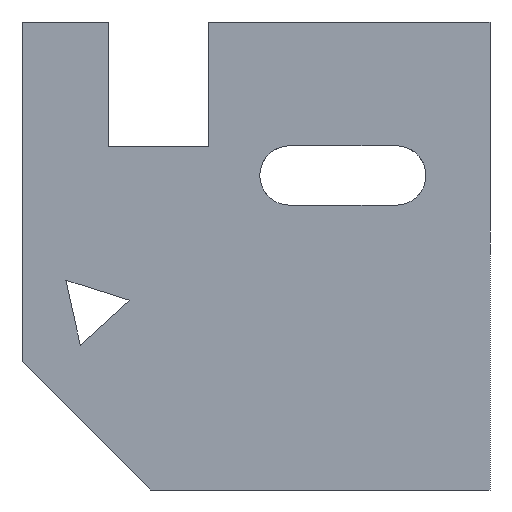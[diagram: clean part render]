
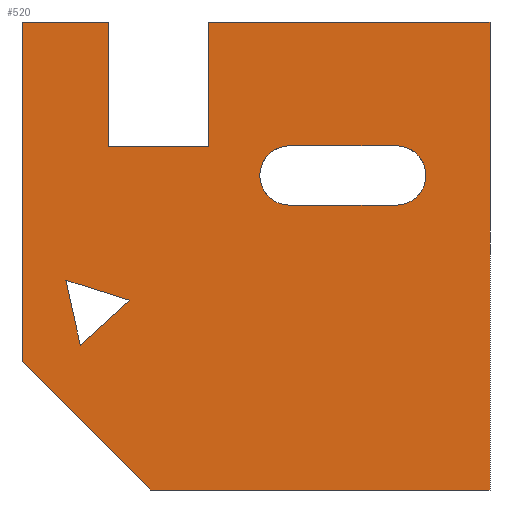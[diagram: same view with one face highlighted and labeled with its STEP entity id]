
A CAD part, front view. The second image highlights one B-rep face of the part: STEP entity #520.
In plain terms, the highlighted planar face has unit normal (0, -1, 0).
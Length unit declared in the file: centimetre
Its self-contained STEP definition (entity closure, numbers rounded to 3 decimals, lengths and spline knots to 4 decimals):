
#4 = VERTEX_POINT ( 'NONE', #489 ) ;
#13 = CARTESIAN_POINT ( 'NONE',  ( 571.4988, 0., 672.0726 ) ) ;
#31 = LINE ( 'NONE', #579, #462 ) ;
#39 = EDGE_CURVE ( 'NONE', #838, #273, #46, .T. ) ;
#46 = CIRCLE ( 'NONE', #809, 63.4638 ) ;
#54 = VERTEX_POINT ( 'NONE', #878 ) ;
#74 = EDGE_CURVE ( 'NONE', #456, #973, #518, .T. ) ;
#86 = LINE ( 'NONE', #391, #264 ) ;
#87 = ORIENTED_EDGE ( 'NONE', *, *, #862, .T. ) ;
#92 = LINE ( 'NONE', #588, #758 ) ;
#93 = AXIS2_PLACEMENT_3D ( 'NONE', #875, #166, #795 ) ;
#98 = EDGE_CURVE ( 'NONE', #4, #844, #984, .T. ) ;
#113 = ORIENTED_EDGE ( 'NONE', *, *, #540, .F. ) ;
#119 = LINE ( 'NONE', #362, #547 ) ;
#121 = DIRECTION ( 'NONE',  ( 1., 0., 0. ) ) ;
#122 = CARTESIAN_POINT ( 'NONE',  ( 0., 0., 1000. ) ) ;
#135 = CARTESIAN_POINT ( 'NONE',  ( 185.1699, 0., 733.422 ) ) ;
#138 = ORIENTED_EDGE ( 'NONE', *, *, #283, .F. ) ;
#140 = CARTESIAN_POINT ( 'NONE',  ( 1000., 0., 0. ) ) ;
#148 = CARTESIAN_POINT ( 'NONE',  ( 185.1699, 0., 733.422 ) ) ;
#159 = CARTESIAN_POINT ( 'NONE',  ( 93.8897, 0., 448.2873 ) ) ;
#166 = DIRECTION ( 'NONE',  ( 0., -1., 0. ) ) ;
#169 = ORIENTED_EDGE ( 'NONE', *, *, #762, .F. ) ;
#176 = VECTOR ( 'NONE', #271, 100. ) ;
#183 = LINE ( 'NONE', #880, #176 ) ;
#202 = DIRECTION ( 'NONE',  ( 0., 0., -1. ) ) ;
#213 = EDGE_CURVE ( 'NONE', #54, #844, #31, .T. ) ;
#217 = CARTESIAN_POINT ( 'NONE',  ( 799.7059, 0., 608.6088 ) ) ;
#221 = LINE ( 'NONE', #148, #938 ) ;
#229 = DIRECTION ( 'NONE',  ( 1., 0., 0. ) ) ;
#233 = CARTESIAN_POINT ( 'NONE',  ( 0., 0., 274.0375 ) ) ;
#249 = VERTEX_POINT ( 'NONE', #651 ) ;
#264 = VECTOR ( 'NONE', #552, 100. ) ;
#265 = ORIENTED_EDGE ( 'NONE', *, *, #654, .T. ) ;
#271 = DIRECTION ( 'NONE',  ( 0., 0., 1. ) ) ;
#273 = VERTEX_POINT ( 'NONE', #804 ) ;
#276 = VECTOR ( 'NONE', #831, 100. ) ;
#277 = EDGE_CURVE ( 'NONE', #273, #798, #885, .T. ) ;
#283 = EDGE_CURVE ( 'NONE', #298, #312, #183, .T. ) ;
#288 = EDGE_CURVE ( 'NONE', #973, #527, #92, .T. ) ;
#298 = VERTEX_POINT ( 'NONE', #350 ) ;
#301 = LINE ( 'NONE', #1022, #742 ) ;
#312 = VERTEX_POINT ( 'NONE', #740 ) ;
#327 = CIRCLE ( 'NONE', #93, 63.4638 ) ;
#330 = CARTESIAN_POINT ( 'NONE',  ( 0., 0., 1000. ) ) ;
#337 = DIRECTION ( 'NONE',  ( 0., 0., -1. ) ) ;
#350 = CARTESIAN_POINT ( 'NONE',  ( 397.7968, 0., 733.422 ) ) ;
#354 = CARTESIAN_POINT ( 'NONE',  ( 229.4705, 0., 405.3893 ) ) ;
#362 = CARTESIAN_POINT ( 'NONE',  ( 185.1699, 0., 733.422 ) ) ;
#371 = ORIENTED_EDGE ( 'NONE', *, *, #39, .F. ) ;
#380 = VECTOR ( 'NONE', #756, 100. ) ;
#390 = EDGE_CURVE ( 'NONE', #773, #249, #603, .T. ) ;
#391 = CARTESIAN_POINT ( 'NONE',  ( 0., 0., 1000. ) ) ;
#425 = VECTOR ( 'NONE', #952, 100. ) ;
#442 = CARTESIAN_POINT ( 'NONE',  ( 0., 0., 1000. ) ) ;
#452 = EDGE_LOOP ( 'NONE', ( #619, #371, #995, #1013 ) ) ;
#456 = VERTEX_POINT ( 'NONE', #592 ) ;
#462 = VECTOR ( 'NONE', #337, 100. ) ;
#467 = VERTEX_POINT ( 'NONE', #845 ) ;
#471 = VERTEX_POINT ( 'NONE', #135 ) ;
#489 = CARTESIAN_POINT ( 'NONE',  ( 274.0375, 0., 0. ) ) ;
#493 = ORIENTED_EDGE ( 'NONE', *, *, #390, .F. ) ;
#496 = DIRECTION ( 'NONE',  ( 0., 0., -1. ) ) ;
#497 = EDGE_CURVE ( 'NONE', #312, #54, #850, .T. ) ;
#499 = DIRECTION ( 'NONE',  ( 1., 0., 0. ) ) ;
#504 = EDGE_LOOP ( 'NONE', ( #113, #719, #493, #265, #87, #586, #665, #700, #138 ) ) ;
#508 = EDGE_CURVE ( 'NONE', #249, #471, #119, .T. ) ;
#518 = LINE ( 'NONE', #763, #380 ) ;
#520 = ADVANCED_FACE ( 'NONE', ( #754, #675, #521 ), #835, .F. ) ;
#521 = FACE_OUTER_BOUND ( 'NONE', #504, .T. ) ;
#527 = VERTEX_POINT ( 'NONE', #936 ) ;
#533 = DIRECTION ( 'NONE',  ( -1., 0., 0. ) ) ;
#540 = EDGE_CURVE ( 'NONE', #471, #298, #221, .T. ) ;
#542 = DIRECTION ( 'NONE',  ( 0., 0., 1. ) ) ;
#547 = VECTOR ( 'NONE', #202, 100. ) ;
#548 = EDGE_LOOP ( 'NONE', ( #779, #994, #169 ) ) ;
#552 = DIRECTION ( 'NONE',  ( 0., 0., -1. ) ) ;
#572 = DIRECTION ( 'NONE',  ( 0., -1., 0. ) ) ;
#579 = CARTESIAN_POINT ( 'NONE',  ( 1000., 0., 1000. ) ) ;
#586 = ORIENTED_EDGE ( 'NONE', *, *, #98, .T. ) ;
#588 = CARTESIAN_POINT ( 'NONE',  ( 229.4705, 0., 405.3893 ) ) ;
#592 = CARTESIAN_POINT ( 'NONE',  ( 124.5294, 0., 309.4219 ) ) ;
#596 = VERTEX_POINT ( 'NONE', #233 ) ;
#603 = LINE ( 'NONE', #442, #1020 ) ;
#619 = ORIENTED_EDGE ( 'NONE', *, *, #277, .F. ) ;
#623 = DIRECTION ( 'NONE',  ( 0., 1., 0. ) ) ;
#633 = CARTESIAN_POINT ( 'NONE',  ( 0., 0., 274.0375 ) ) ;
#651 = CARTESIAN_POINT ( 'NONE',  ( 185.1699, 0., 1000. ) ) ;
#654 = EDGE_CURVE ( 'NONE', #773, #596, #86, .T. ) ;
#665 = ORIENTED_EDGE ( 'NONE', *, *, #213, .F. ) ;
#675 = FACE_BOUND ( 'NONE', #452, .T. ) ;
#687 = EDGE_CURVE ( 'NONE', #798, #467, #327, .T. ) ;
#700 = ORIENTED_EDGE ( 'NONE', *, *, #497, .F. ) ;
#719 = ORIENTED_EDGE ( 'NONE', *, *, #508, .F. ) ;
#740 = CARTESIAN_POINT ( 'NONE',  ( 397.7968, 0., 1000. ) ) ;
#742 = VECTOR ( 'NONE', #533, 100. ) ;
#754 = FACE_BOUND ( 'NONE', #548, .T. ) ;
#756 = DIRECTION ( 'NONE',  ( 0.738, 0., 0.675 ) ) ;
#758 = VECTOR ( 'NONE', #810, 100. ) ;
#762 = EDGE_CURVE ( 'NONE', #527, #456, #800, .T. ) ;
#763 = CARTESIAN_POINT ( 'NONE',  ( 124.5294, 0., 309.4219 ) ) ;
#773 = VERTEX_POINT ( 'NONE', #330 ) ;
#775 = CARTESIAN_POINT ( 'NONE',  ( 571.4988, 0., 735.5363 ) ) ;
#779 = ORIENTED_EDGE ( 'NONE', *, *, #288, .F. ) ;
#786 = LINE ( 'NONE', #633, #824 ) ;
#795 = DIRECTION ( 'NONE',  ( 0., 0., -1. ) ) ;
#798 = VERTEX_POINT ( 'NONE', #217 ) ;
#800 = LINE ( 'NONE', #159, #425 ) ;
#804 = CARTESIAN_POINT ( 'NONE',  ( 571.4988, 0., 608.6088 ) ) ;
#809 = AXIS2_PLACEMENT_3D ( 'NONE', #13, #572, #496 ) ;
#810 = DIRECTION ( 'NONE',  ( -0.953, 0., 0.302 ) ) ;
#821 = VECTOR ( 'NONE', #499, 100. ) ;
#824 = VECTOR ( 'NONE', #944, 100. ) ;
#831 = DIRECTION ( 'NONE',  ( 1., 0., 0. ) ) ;
#833 = CARTESIAN_POINT ( 'NONE',  ( 0., 0., 0. ) ) ;
#835 = PLANE ( 'NONE',  #839 ) ;
#838 = VERTEX_POINT ( 'NONE', #775 ) ;
#839 = AXIS2_PLACEMENT_3D ( 'NONE', #122, #623, #542 ) ;
#844 = VERTEX_POINT ( 'NONE', #140 ) ;
#845 = CARTESIAN_POINT ( 'NONE',  ( 799.7059, 0., 735.5363 ) ) ;
#850 = LINE ( 'NONE', #986, #276 ) ;
#862 = EDGE_CURVE ( 'NONE', #596, #4, #786, .T. ) ;
#875 = CARTESIAN_POINT ( 'NONE',  ( 799.7059, 0., 672.0726 ) ) ;
#878 = CARTESIAN_POINT ( 'NONE',  ( 1000., 0., 1000. ) ) ;
#880 = CARTESIAN_POINT ( 'NONE',  ( 397.7968, 0., 733.422 ) ) ;
#885 = LINE ( 'NONE', #975, #821 ) ;
#900 = EDGE_CURVE ( 'NONE', #467, #838, #301, .T. ) ;
#936 = CARTESIAN_POINT ( 'NONE',  ( 93.8897, 0., 448.2873 ) ) ;
#938 = VECTOR ( 'NONE', #229, 100. ) ;
#944 = DIRECTION ( 'NONE',  ( 0.707, 0., -0.707 ) ) ;
#952 = DIRECTION ( 'NONE',  ( 0.215, 0., -0.977 ) ) ;
#973 = VERTEX_POINT ( 'NONE', #354 ) ;
#975 = CARTESIAN_POINT ( 'NONE',  ( 571.4988, 0., 608.6088 ) ) ;
#982 = VECTOR ( 'NONE', #121, 100. ) ;
#984 = LINE ( 'NONE', #833, #982 ) ;
#986 = CARTESIAN_POINT ( 'NONE',  ( 0., 0., 1000. ) ) ;
#994 = ORIENTED_EDGE ( 'NONE', *, *, #74, .F. ) ;
#995 = ORIENTED_EDGE ( 'NONE', *, *, #900, .F. ) ;
#996 = DIRECTION ( 'NONE',  ( 1., 0., 0. ) ) ;
#1013 = ORIENTED_EDGE ( 'NONE', *, *, #687, .F. ) ;
#1020 = VECTOR ( 'NONE', #996, 100. ) ;
#1022 = CARTESIAN_POINT ( 'NONE',  ( 799.7059, 0., 735.5363 ) ) ;
